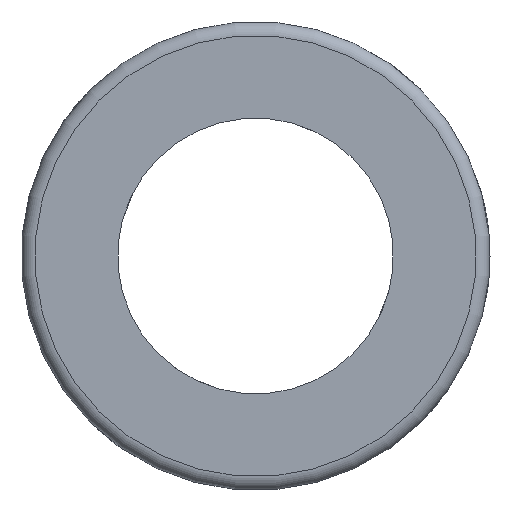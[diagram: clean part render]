
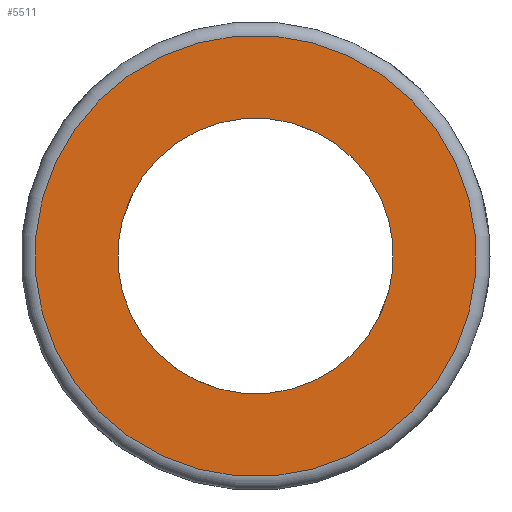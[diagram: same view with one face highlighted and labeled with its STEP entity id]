
A CAD part, left-side view. The second image highlights one B-rep face of the part: STEP entity #5511.
In plain terms, the highlighted planar face has unit normal (-1, 0, 0).
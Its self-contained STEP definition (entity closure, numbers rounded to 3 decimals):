
#121=PLANE('',#5934);
#582=CIRCLE('',#5931,5.);
#584=CIRCLE('',#5935,8.);
#943=ORIENTED_EDGE('',*,*,#2608,.T.);
#944=ORIENTED_EDGE('',*,*,#2598,.T.);
#2598=EDGE_CURVE('',#3431,#3431,#582,.T.);
#2608=EDGE_CURVE('',#3441,#3441,#584,.F.);
#3431=VERTEX_POINT('',#8547);
#3441=VERTEX_POINT('',#8585);
#4698=EDGE_LOOP('',(#943));
#4699=EDGE_LOOP('',(#944));
#5099=FACE_BOUND('',#4698,.T.);
#5100=FACE_BOUND('',#4699,.T.);
#5511=ADVANCED_FACE('',(#5099,#5100),#121,.F.);
#5931=AXIS2_PLACEMENT_3D('',#8546,#6499,#6500);
#5934=AXIS2_PLACEMENT_3D('',#8583,#6509,#6510);
#5935=AXIS2_PLACEMENT_3D('',#8584,#6511,#6512);
#6499=DIRECTION('',(1.,0.,0.));
#6500=DIRECTION('',(0.,0.707,-0.707));
#6509=DIRECTION('',(1.,0.,0.));
#6510=DIRECTION('',(0.,0.707,-0.707));
#6511=DIRECTION('',(1.,0.,0.));
#6512=DIRECTION('',(0.,0.707,-0.707));
#8546=CARTESIAN_POINT('',(-13.,0.,0.));
#8547=CARTESIAN_POINT('',(-13.,3.536,-3.536));
#8583=CARTESIAN_POINT('',(-13.,0.,0.));
#8584=CARTESIAN_POINT('',(-13.,0.,0.));
#8585=CARTESIAN_POINT('',(-13.,5.657,-5.657));
